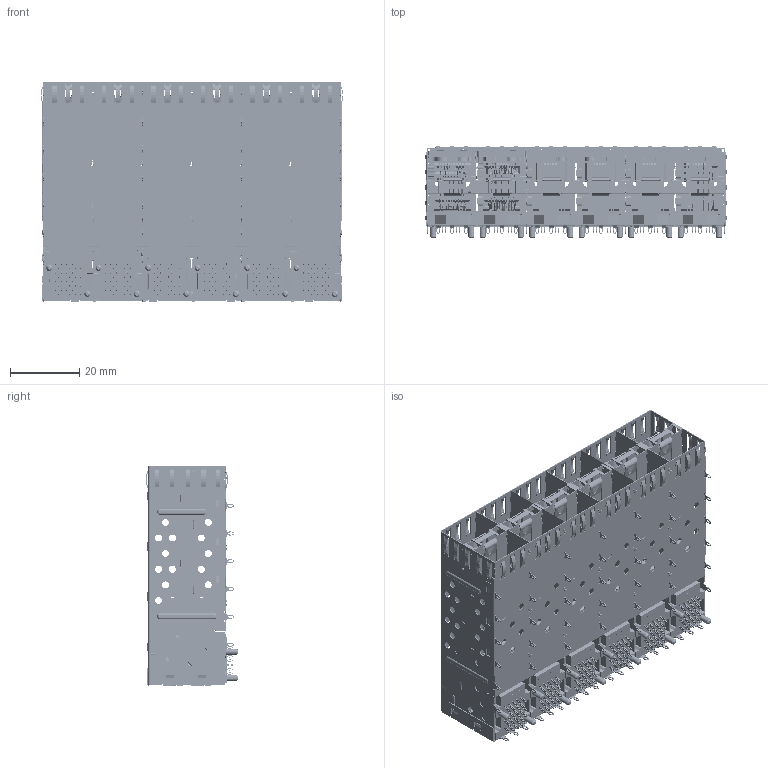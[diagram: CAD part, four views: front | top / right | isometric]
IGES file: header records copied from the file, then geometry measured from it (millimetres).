
Start section: SolidWorks IGES file using analytic representation for surfaces
Global section: file name: C:\Users\Administrator\Desktop\sfp 2x6Æ«µÍAssy__20140507.IGS; native system: SolidWorks 2012; preprocessor: SolidWorks 2012; author: Administrator; date: 150313.124020; units: millimetre
Bounding box: 87.15 x 26.65 x 63.49 mm (x, y, z)
Surface area: 83633.7 mm2 (no closed solid volume)
Topology: 0 solids, 0 shells, 13796 faces, 188375 edges, 188368 vertices
Faces by surface type: bspline 7886, revolution 5910
